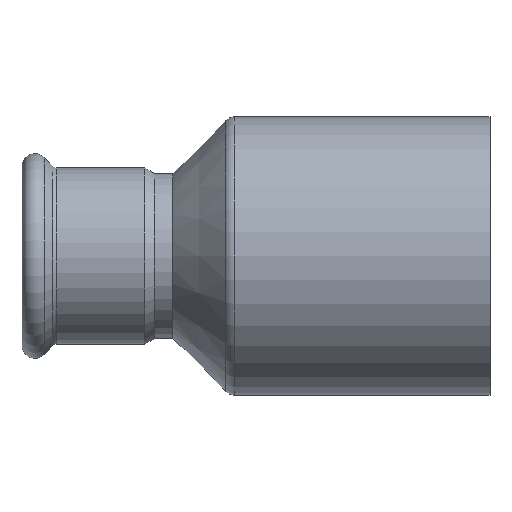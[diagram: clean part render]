
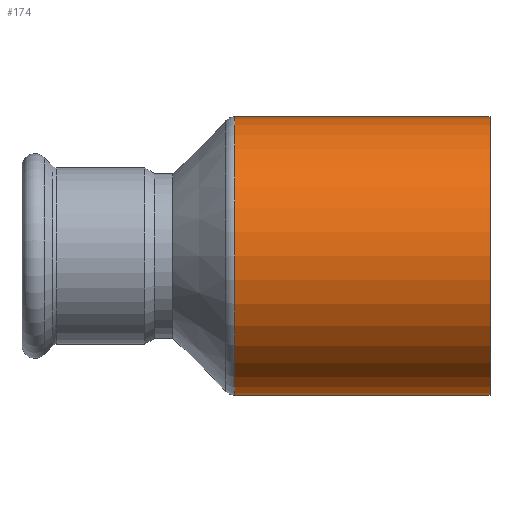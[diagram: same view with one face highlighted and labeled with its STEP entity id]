
A CAD part, front view. The second image highlights one B-rep face of the part: STEP entity #174.
In plain terms, the highlighted cylindrical face has radius 54 mm (diameter 108 mm), a full revolution.
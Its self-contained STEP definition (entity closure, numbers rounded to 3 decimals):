
#123=CARTESIAN_POINT('',(-98.929,54.0,0.));
#124=VERTEX_POINT('',#123);
#125=CARTESIAN_POINT('',(-98.929,0.0,0.0));
#126=DIRECTION('',(-1.0,0.0,0.0));
#127=DIRECTION('',(0.0,-1.0,0.0));
#128=AXIS2_PLACEMENT_3D('',#125,#126,#127);
#129=CIRCLE('',#128,54.0);
#130=EDGE_CURVE('',#124,#124,#129,.T.);
#155=CARTESIAN_POINT('',(-50.5,0.0,0.0));
#156=DIRECTION('',(1.0,0.0,0.0));
#157=DIRECTION('',(0.0,1.0,0.0));
#158=AXIS2_PLACEMENT_3D('',#155,#156,#157);
#159=CYLINDRICAL_SURFACE('',#158,54.0);
#160=CARTESIAN_POINT('',(0.,54.0,0.0));
#161=VERTEX_POINT('',#160);
#162=CARTESIAN_POINT('',(0.,0.0,0.0));
#163=DIRECTION('',(1.0,0.0,0.0));
#164=DIRECTION('',(0.0,1.0,0.0));
#165=AXIS2_PLACEMENT_3D('',#162,#163,#164);
#166=CIRCLE('',#165,54.0);
#167=EDGE_CURVE('',#161,#161,#166,.T.);
#168=ORIENTED_EDGE('',*,*,#167,.F.);
#169=EDGE_LOOP('',(#168));
#170=FACE_OUTER_BOUND('',#169,.T.);
#171=ORIENTED_EDGE('',*,*,#130,.F.);
#172=EDGE_LOOP('',(#171));
#173=FACE_BOUND('',#172,.T.);
#174=ADVANCED_FACE('',(#170,#173),#159,.T.);
